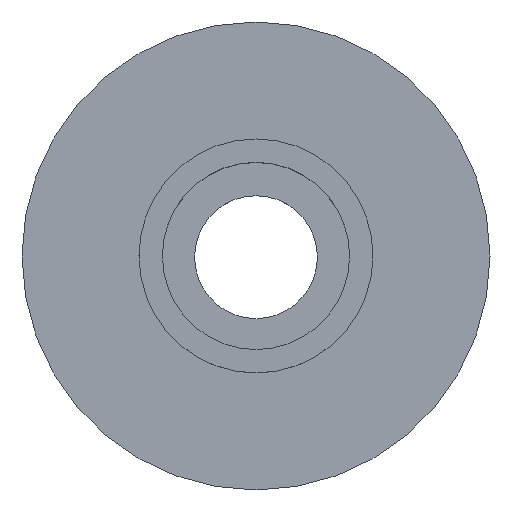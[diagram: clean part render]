
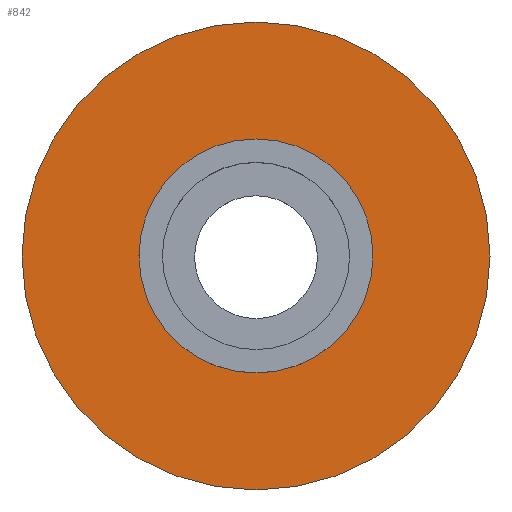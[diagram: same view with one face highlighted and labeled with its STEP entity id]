
A CAD part, top view. The second image highlights one B-rep face of the part: STEP entity #842.
In plain terms, the highlighted planar face has unit normal (0, 0, 1).
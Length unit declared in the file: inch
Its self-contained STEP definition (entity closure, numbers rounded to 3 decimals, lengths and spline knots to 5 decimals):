
#155=PLANE('',#913);
#178=FACE_BOUND('',#270,.T.);
#204=FACE_OUTER_BOUND('',#269,.T.);
#269=EDGE_LOOP('',(#567));
#270=EDGE_LOOP('',(#568));
#328=CIRCLE('',#892,0.625);
#338=CIRCLE('',#912,1.25);
#358=VERTEX_POINT('',#1112);
#368=VERTEX_POINT('',#1142);
#438=EDGE_CURVE('',#358,#358,#328,.T.);
#448=EDGE_CURVE('',#368,#368,#338,.T.);
#567=ORIENTED_EDGE('',*,*,#448,.T.);
#568=ORIENTED_EDGE('',*,*,#438,.F.);
#842=ADVANCED_FACE('',(#204,#178),#155,.T.);
#892=AXIS2_PLACEMENT_3D('',#1113,#958,#959);
#912=AXIS2_PLACEMENT_3D('',#1143,#998,#999);
#913=AXIS2_PLACEMENT_3D('',#1144,#1000,#1001);
#958=DIRECTION('center_axis',(0.,0.,
1.));
#959=DIRECTION('ref_axis',(1.,0.,0.));
#998=DIRECTION('center_axis',(0.,0.,
1.));
#999=DIRECTION('ref_axis',(1.,0.,0.));
#1000=DIRECTION('center_axis',(0.,0.,
1.));
#1001=DIRECTION('ref_axis',(0.,-1.,0.));
#1112=CARTESIAN_POINT('',(0.625,0.,3.68503));
#1113=CARTESIAN_POINT('Origin',(0.,0.,
3.68503));
#1142=CARTESIAN_POINT('',(1.25,0.,3.68503));
#1143=CARTESIAN_POINT('Origin',(0.,0.,
3.68503));
#1144=CARTESIAN_POINT('Origin',(0.9375,0.,3.68503));
